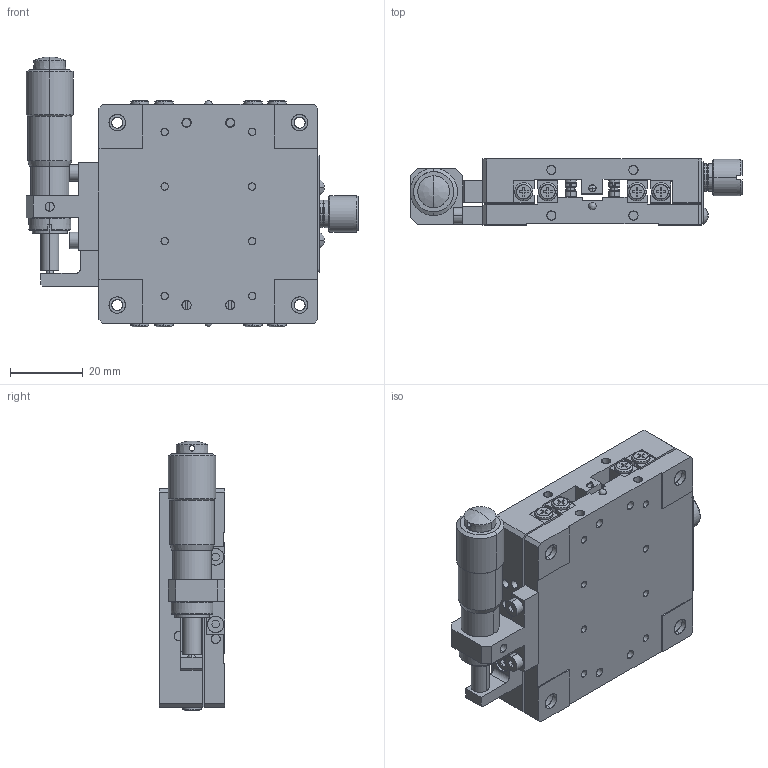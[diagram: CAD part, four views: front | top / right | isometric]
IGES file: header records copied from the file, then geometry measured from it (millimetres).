
Start section: SolidWorks IGES file using analytic representation for surfaces
Global section: file name: E:\0莉こ芞祧(2019)\07PHL\60\IGS\PHL-661S.IGS; native system: SolidWorks 2015; preprocessor: SolidWorks 2015; author: Administrator; date: 190124.103100; units: millimetre
Bounding box: 91 x 18 x 74 mm (x, y, z)
Surface area: 41468.7 mm2 (no closed solid volume)
Topology: 0 solids, 0 shells, 1197 faces, 19949 edges, 19939 vertices
Faces by surface type: bspline 635, revolution 562
